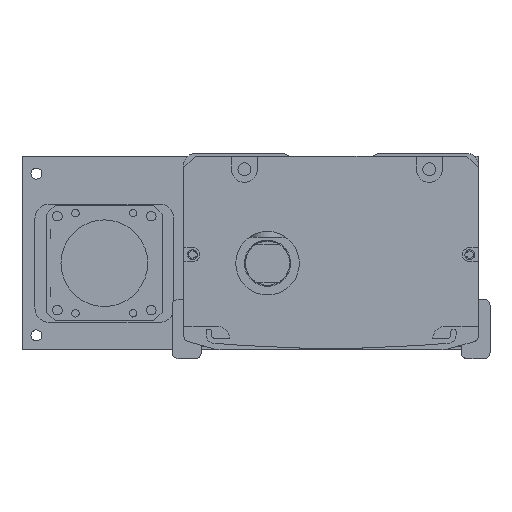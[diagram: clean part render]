
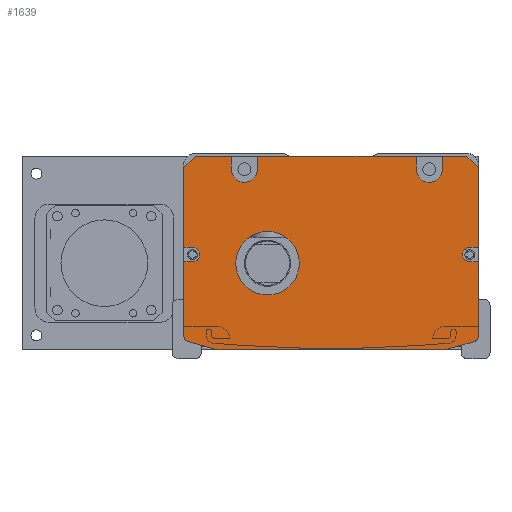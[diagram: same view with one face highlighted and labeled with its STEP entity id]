
A CAD part, front view. The second image highlights one B-rep face of the part: STEP entity #1639.
In plain terms, the highlighted planar face has unit normal (0, -1, 0).
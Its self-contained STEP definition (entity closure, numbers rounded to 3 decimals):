
#1639=ADVANCED_FACE('',(#4320,#4321),#2325,.F.);
#2325=PLANE('',#13699);
#2626=LINE('',#19072,#3429);
#2630=LINE('',#19080,#3433);
#2640=LINE('',#19101,#3443);
#2644=LINE('',#19109,#3447);
#2913=LINE('',#20102,#3716);
#2914=LINE('',#20104,#3717);
#2915=LINE('',#20106,#3718);
#2916=LINE('',#20110,#3719);
#2917=LINE('',#20112,#3720);
#2918=LINE('',#20114,#3721);
#2919=LINE('',#20118,#3722);
#2920=LINE('',#20120,#3723);
#2921=LINE('',#20122,#3724);
#2922=LINE('',#20123,#3725);
#2923=LINE('',#20127,#3726);
#2924=LINE('',#20130,#3727);
#2925=LINE('',#20134,#3728);
#2926=LINE('',#20138,#3729);
#2927=LINE('',#20141,#3730);
#2928=LINE('',#20145,#3731);
#3429=VECTOR('',#14969,1.);
#3433=VECTOR('',#14973,1.);
#3443=VECTOR('',#14985,1.);
#3447=VECTOR('',#14989,1.);
#3716=VECTOR('',#16054,1.);
#3717=VECTOR('',#16055,1.);
#3718=VECTOR('',#16056,1.);
#3719=VECTOR('',#16059,1.);
#3720=VECTOR('',#16060,1.);
#3721=VECTOR('',#16061,1.);
#3722=VECTOR('',#16064,1.);
#3723=VECTOR('',#16065,1.);
#3724=VECTOR('',#16066,1.);
#3725=VECTOR('',#16067,1.);
#3726=VECTOR('',#16070,1.);
#3727=VECTOR('',#16073,1.);
#3728=VECTOR('',#16076,1.);
#3729=VECTOR('',#16079,1.);
#3730=VECTOR('',#16082,1.);
#3731=VECTOR('',#16085,1.);
#4320=FACE_BOUND('',#5044,.T.);
#4321=FACE_BOUND('',#5045,.T.);
#5044=EDGE_LOOP('',(#6948,#6949,#6950,#6951,#6952,#6953,#6954,#6955,#6956,
#6957,#6958,#6959,#6960,#6961,#6962,#6963,#6964,#6965,#6966,#6967,#6968,
#6969,#6970,#6971,#6972,#6973,#6974,#6975));
#5045=EDGE_LOOP('',(#6976));
#6948=ORIENTED_EDGE('',*,*,#10872,.T.);
#6949=ORIENTED_EDGE('',*,*,#11356,.T.);
#6950=ORIENTED_EDGE('',*,*,#11357,.T.);
#6951=ORIENTED_EDGE('',*,*,#11358,.F.);
#6952=ORIENTED_EDGE('',*,*,#11359,.T.);
#6953=ORIENTED_EDGE('',*,*,#11360,.F.);
#6954=ORIENTED_EDGE('',*,*,#11361,.T.);
#6955=ORIENTED_EDGE('',*,*,#11362,.F.);
#6956=ORIENTED_EDGE('',*,*,#11363,.T.);
#6957=ORIENTED_EDGE('',*,*,#11364,.F.);
#6958=ORIENTED_EDGE('',*,*,#11365,.T.);
#6959=ORIENTED_EDGE('',*,*,#11366,.T.);
#6960=ORIENTED_EDGE('',*,*,#10890,.T.);
#6961=ORIENTED_EDGE('',*,*,#11367,.T.);
#6962=ORIENTED_EDGE('',*,*,#11368,.T.);
#6963=ORIENTED_EDGE('',*,*,#11369,.T.);
#6964=ORIENTED_EDGE('',*,*,#10886,.T.);
#6965=ORIENTED_EDGE('',*,*,#11370,.T.);
#6966=ORIENTED_EDGE('',*,*,#11371,.T.);
#6967=ORIENTED_EDGE('',*,*,#11372,.T.);
#6968=ORIENTED_EDGE('',*,*,#11373,.T.);
#6969=ORIENTED_EDGE('',*,*,#11374,.T.);
#6970=ORIENTED_EDGE('',*,*,#11375,.T.);
#6971=ORIENTED_EDGE('',*,*,#11376,.T.);
#6972=ORIENTED_EDGE('',*,*,#10876,.T.);
#6973=ORIENTED_EDGE('',*,*,#11377,.T.);
#6974=ORIENTED_EDGE('',*,*,#11378,.T.);
#6975=ORIENTED_EDGE('',*,*,#11379,.T.);
#6976=ORIENTED_EDGE('',*,*,#11380,.T.);
#9581=VERTEX_POINT('',#19071);
#9582=VERTEX_POINT('',#19073);
#9585=VERTEX_POINT('',#19079);
#9586=VERTEX_POINT('',#19081);
#9595=VERTEX_POINT('',#19100);
#9596=VERTEX_POINT('',#19102);
#9599=VERTEX_POINT('',#19108);
#9600=VERTEX_POINT('',#19110);
#9926=VERTEX_POINT('',#20103);
#9927=VERTEX_POINT('',#20105);
#9928=VERTEX_POINT('',#20107);
#9929=VERTEX_POINT('',#20109);
#9930=VERTEX_POINT('',#20111);
#9931=VERTEX_POINT('',#20113);
#9932=VERTEX_POINT('',#20115);
#9933=VERTEX_POINT('',#20117);
#9934=VERTEX_POINT('',#20119);
#9935=VERTEX_POINT('',#20121);
#9936=VERTEX_POINT('',#20124);
#9937=VERTEX_POINT('',#20126);
#9938=VERTEX_POINT('',#20129);
#9939=VERTEX_POINT('',#20131);
#9940=VERTEX_POINT('',#20133);
#9941=VERTEX_POINT('',#20135);
#9942=VERTEX_POINT('',#20137);
#9943=VERTEX_POINT('',#20139);
#9944=VERTEX_POINT('',#20142);
#9945=VERTEX_POINT('',#20144);
#9946=VERTEX_POINT('',#20147);
#10872=EDGE_CURVE('',#9582,#9581,#2626,.T.);
#10876=EDGE_CURVE('',#9586,#9585,#2630,.T.);
#10886=EDGE_CURVE('',#9596,#9595,#2640,.T.);
#10890=EDGE_CURVE('',#9600,#9599,#2644,.T.);
#11356=EDGE_CURVE('',#9581,#9926,#2913,.T.);
#11357=EDGE_CURVE('',#9926,#9927,#2914,.T.);
#11358=EDGE_CURVE('',#9928,#9927,#2915,.T.);
#11359=EDGE_CURVE('',#9928,#9929,#12760,.T.);
#11360=EDGE_CURVE('',#9930,#9929,#2916,.T.);
#11361=EDGE_CURVE('',#9930,#9931,#2917,.T.);
#11362=EDGE_CURVE('',#9932,#9931,#2918,.T.);
#11363=EDGE_CURVE('',#9932,#9933,#12761,.T.);
#11364=EDGE_CURVE('',#9934,#9933,#2919,.T.);
#11365=EDGE_CURVE('',#9934,#9935,#2920,.T.);
#11366=EDGE_CURVE('',#9935,#9600,#2921,.T.);
#11367=EDGE_CURVE('',#9599,#9936,#2922,.T.);
#11368=EDGE_CURVE('',#9936,#9937,#12762,.T.);
#11369=EDGE_CURVE('',#9937,#9596,#2923,.T.);
#11370=EDGE_CURVE('',#9595,#9938,#12763,.T.);
#11371=EDGE_CURVE('',#9938,#9939,#2924,.T.);
#11372=EDGE_CURVE('',#9939,#9940,#12764,.T.);
#11373=EDGE_CURVE('',#9940,#9941,#2925,.T.);
#11374=EDGE_CURVE('',#9941,#9942,#12765,.T.);
#11375=EDGE_CURVE('',#9942,#9943,#2926,.T.);
#11376=EDGE_CURVE('',#9943,#9586,#12766,.T.);
#11377=EDGE_CURVE('',#9585,#9944,#2927,.T.);
#11378=EDGE_CURVE('',#9944,#9945,#12767,.T.);
#11379=EDGE_CURVE('',#9945,#9582,#2928,.T.);
#11380=EDGE_CURVE('',#9946,#9946,#12768,.T.);
#12760=CIRCLE('',#13690,4.5);
#12761=CIRCLE('',#13691,4.5);
#12762=CIRCLE('',#13692,2.5);
#12763=CIRCLE('',#13693,2.);
#12764=CIRCLE('',#13694,10.);
#12765=CIRCLE('',#13695,10.);
#12766=CIRCLE('',#13696,2.);
#12767=CIRCLE('',#13697,2.5);
#12768=CIRCLE('',#13698,11.);
#13690=AXIS2_PLACEMENT_3D('',#20108,#16057,#16058);
#13691=AXIS2_PLACEMENT_3D('',#20116,#16062,#16063);
#13692=AXIS2_PLACEMENT_3D('',#20125,#16068,#16069);
#13693=AXIS2_PLACEMENT_3D('',#20128,#16071,#16072);
#13694=AXIS2_PLACEMENT_3D('',#20132,#16074,#16075);
#13695=AXIS2_PLACEMENT_3D('',#20136,#16077,#16078);
#13696=AXIS2_PLACEMENT_3D('',#20140,#16080,#16081);
#13697=AXIS2_PLACEMENT_3D('',#20143,#16083,#16084);
#13698=AXIS2_PLACEMENT_3D('',#20146,#16086,#16087);
#13699=AXIS2_PLACEMENT_3D('',#20148,#16088,#16089);
#14969=DIRECTION('',(0.,0.,1.));
#14973=DIRECTION('',(0.,0.,1.));
#14985=DIRECTION('',(0.,0.,-1.));
#14989=DIRECTION('',(0.,0.,-1.));
#16054=DIRECTION('',(-0.707,0.,0.707));
#16055=DIRECTION('',(-1.,0.,0.));
#16056=DIRECTION('',(0.,0.,1.));
#16057=DIRECTION('',(0.,1.,0.));
#16058=DIRECTION('',(0.,0.,1.));
#16059=DIRECTION('',(0.,0.,-1.));
#16060=DIRECTION('',(-1.,0.,0.));
#16061=DIRECTION('',(0.,0.,1.));
#16062=DIRECTION('',(0.,1.,0.));
#16063=DIRECTION('',(0.,0.,1.));
#16064=DIRECTION('',(0.,0.,-1.));
#16065=DIRECTION('',(-1.,0.,0.));
#16066=DIRECTION('',(-0.707,0.,-0.707));
#16067=DIRECTION('',(1.,0.,0.));
#16068=DIRECTION('',(0.,1.,0.));
#16069=DIRECTION('',(0.,0.,1.));
#16070=DIRECTION('',(-1.,0.,0.));
#16071=DIRECTION('',(0.,-1.,0.));
#16072=DIRECTION('',(0.,0.,1.));
#16073=DIRECTION('',(0.963,0.,-0.269));
#16074=DIRECTION('',(0.,-1.,0.));
#16075=DIRECTION('',(0.,0.,1.));
#16076=DIRECTION('',(1.,0.,0.));
#16077=DIRECTION('',(0.,-1.,0.));
#16078=DIRECTION('',(0.,0.,-1.));
#16079=DIRECTION('',(0.963,0.,0.269));
#16080=DIRECTION('',(0.,-1.,0.));
#16081=DIRECTION('',(0.,0.,-1.));
#16082=DIRECTION('',(-1.,0.,0.));
#16083=DIRECTION('',(0.,1.,0.));
#16084=DIRECTION('',(0.,0.,1.));
#16085=DIRECTION('',(1.,0.,0.));
#16086=DIRECTION('',(0.,1.,0.));
#16087=DIRECTION('',(0.,0.,1.));
#16088=DIRECTION('',(0.,1.,0.));
#16089=DIRECTION('',(1.,0.,0.));
#19071=CARTESIAN_POINT('',(47.808,-467.5,-5.));
#19072=CARTESIAN_POINT('',(47.808,-467.5,-1.));
#19073=CARTESIAN_POINT('',(47.808,-467.5,-32.5));
#19079=CARTESIAN_POINT('',(47.808,-467.5,-37.5));
#19080=CARTESIAN_POINT('',(47.808,-467.5,-1.));
#19081=CARTESIAN_POINT('',(47.808,-467.5,-63.212));
#19100=CARTESIAN_POINT('',(-54.192,-467.5,-63.212));
#19101=CARTESIAN_POINT('',(-54.192,-467.5,-62.));
#19102=CARTESIAN_POINT('',(-54.192,-467.5,-37.5));
#19108=CARTESIAN_POINT('',(-54.192,-467.5,-32.5));
#19109=CARTESIAN_POINT('',(-54.192,-467.5,-62.));
#19110=CARTESIAN_POINT('',(-54.192,-467.5,-5.));
#20102=CARTESIAN_POINT('',(43.808,-467.5,-1.));
#20103=CARTESIAN_POINT('',(43.808,-467.5,-1.));
#20104=CARTESIAN_POINT('',(-3.192,-467.5,-1.));
#20105=CARTESIAN_POINT('',(35.308,-467.5,-1.));
#20106=CARTESIAN_POINT('',(35.308,-467.5,-1.));
#20107=CARTESIAN_POINT('',(35.308,-467.5,-5.5));
#20108=CARTESIAN_POINT('',(30.808,-467.5,-5.5));
#20109=CARTESIAN_POINT('',(26.308,-467.5,-5.5));
#20110=CARTESIAN_POINT('',(26.308,-467.5,-1.));
#20111=CARTESIAN_POINT('',(26.308,-467.5,-1.));
#20112=CARTESIAN_POINT('',(-54.192,-467.5,-1.));
#20113=CARTESIAN_POINT('',(-28.692,-467.5,-1.));
#20114=CARTESIAN_POINT('',(-28.692,-467.5,-3.5));
#20115=CARTESIAN_POINT('',(-28.692,-467.5,-5.5));
#20116=CARTESIAN_POINT('',(-33.192,-467.5,-5.5));
#20117=CARTESIAN_POINT('',(-37.692,-467.5,-5.5));
#20118=CARTESIAN_POINT('',(-37.692,-467.5,-1.));
#20119=CARTESIAN_POINT('',(-37.692,-467.5,-1.));
#20120=CARTESIAN_POINT('',(-54.192,-467.5,-1.));
#20121=CARTESIAN_POINT('',(-50.192,-467.5,-1.));
#20122=CARTESIAN_POINT('',(-54.192,-467.5,-5.));
#20123=CARTESIAN_POINT('',(-3.192,-467.5,-32.5));
#20124=CARTESIAN_POINT('',(-51.192,-467.5,-32.5));
#20125=CARTESIAN_POINT('',(-51.192,-467.5,-35.));
#20126=CARTESIAN_POINT('',(-51.192,-467.5,-37.5));
#20127=CARTESIAN_POINT('',(-3.192,-467.5,-37.5));
#20128=CARTESIAN_POINT('',(-52.192,-467.5,-63.212));
#20129=CARTESIAN_POINT('',(-52.731,-467.5,-65.138));
#20130=CARTESIAN_POINT('',(-55.807,-467.5,-64.279));
#20131=CARTESIAN_POINT('',(-43.809,-467.5,-67.631));
#20132=CARTESIAN_POINT('',(-41.118,-467.5,-58.));
#20133=CARTESIAN_POINT('',(-41.118,-467.5,-68.));
#20134=CARTESIAN_POINT('',(-54.692,-467.5,-68.));
#20135=CARTESIAN_POINT('',(34.733,-467.5,-68.));
#20136=CARTESIAN_POINT('',(34.733,-467.5,-58.));
#20137=CARTESIAN_POINT('',(37.424,-467.5,-67.631));
#20138=CARTESIAN_POINT('',(49.422,-467.5,-64.279));
#20139=CARTESIAN_POINT('',(46.346,-467.5,-65.138));
#20140=CARTESIAN_POINT('',(45.808,-467.5,-63.212));
#20141=CARTESIAN_POINT('',(-3.192,-467.5,-37.5));
#20142=CARTESIAN_POINT('',(44.808,-467.5,-37.5));
#20143=CARTESIAN_POINT('',(44.808,-467.5,-35.));
#20144=CARTESIAN_POINT('',(44.808,-467.5,-32.5));
#20145=CARTESIAN_POINT('',(-3.192,-467.5,-32.5));
#20146=CARTESIAN_POINT('',(-25.192,-467.5,-38.));
#20147=CARTESIAN_POINT('',(-25.192,-467.5,-27.));
#20148=CARTESIAN_POINT('',(-3.192,-467.5,-1.));
